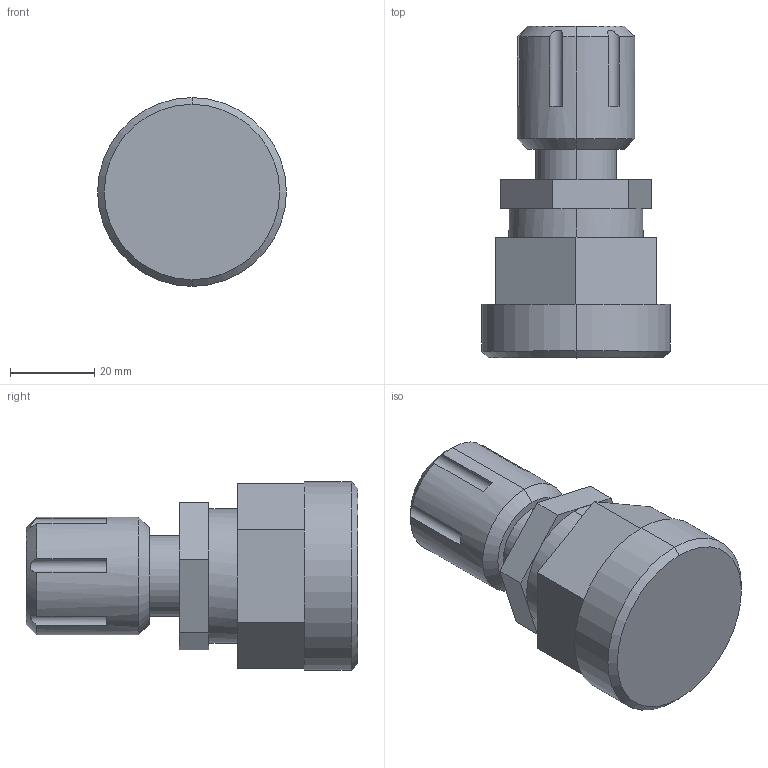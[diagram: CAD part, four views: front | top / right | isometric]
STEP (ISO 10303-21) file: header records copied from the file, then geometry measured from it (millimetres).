
FILE_DESCRIPTION (( 'STEP AP214' ), '1' );
FILE_NAME ('08-flaretek-with-top-mount-adapter.STEP', '2012-11-27T18:00:32', ( '' ), ( '' ), 'SwSTEP 2.0', 'SolidWorks 2012', '' );
FILE_SCHEMA (( 'AUTOMOTIVE_DESIGN' ));
Length unit declared in the file: inch
Products named in the file (1): 08-flaretek-with-top-mount-adapter
Bounding box: 44.7 x 78.59 x 44.7 mm (x, y, z)
Volume: 69220.2 mm3; surface area: 12301.8 mm2
Topology: 1 solids, 1 shells, 56 faces, 135 edges, 86 vertices
Faces by surface type: plane 31, cylinder 19, cone 6
Entity records: 2033 total; most frequent: CARTESIAN_POINT 419, DIRECTION 293, ORIENTED_EDGE 270, EDGE_CURVE 135, AXIS2_PLACEMENT_3D 110, VERTEX_POINT 86, LINE 73, VECTOR 73
